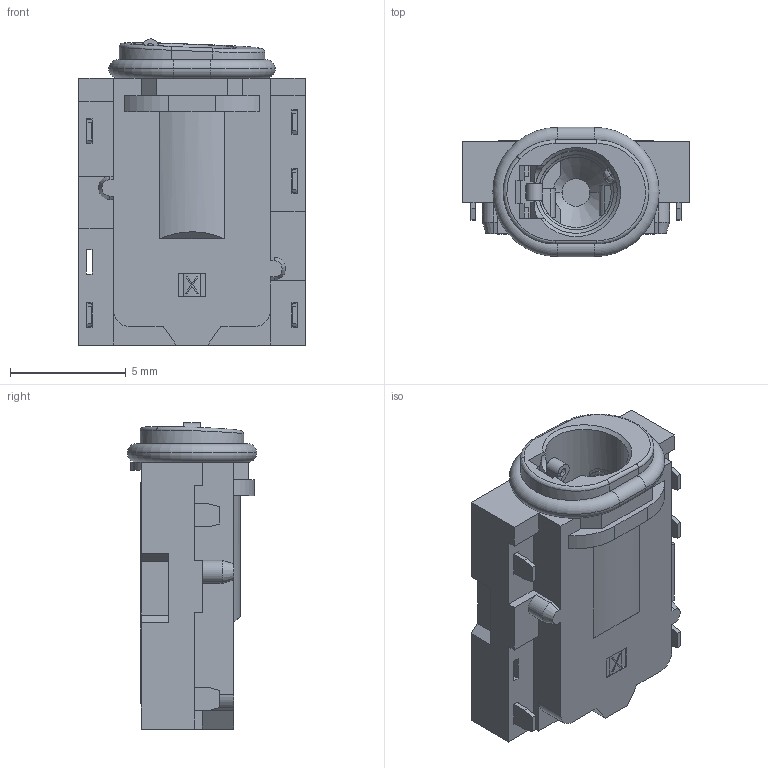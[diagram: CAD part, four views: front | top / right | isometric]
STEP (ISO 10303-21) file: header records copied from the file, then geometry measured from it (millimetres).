
FILE_DESCRIPTION((''),'2;1');
FILE_NAME('HOUSING','2024-12-12T',('longh'),(''),'PRO/ENGINEER BY PARAMETRIC TECHNOLOGY CORPORATION, 2008380','PRO/ENGINEER BY PARAMETRIC TECHNOLOGY CORPORATION, 2008380','');
FILE_SCHEMA(('CONFIG_CONTROL_DESIGN'));
Length unit declared in the file: millimetre
Products named in the file (1): HOUSING
Bounding box: 9.8 x 5.6 x 13.25 mm (x, y, z)
Volume: 328.4 mm3; surface area: 741.9 mm2
Topology: 2 solids, 9 shells, 396 faces, 1090 edges, 719 vertices
Faces by surface type: plane 317, cylinder 55, torus 8, bspline 8, cone 8
Entity records: 13191 total; most frequent: CARTESIAN_POINT 3135, ORIENTED_EDGE 2180, DIRECTION 1906, EDGE_CURVE 1090, VECTOR 860, LINE 860, VERTEX_POINT 719, AXIS2_PLACEMENT_3D 523
